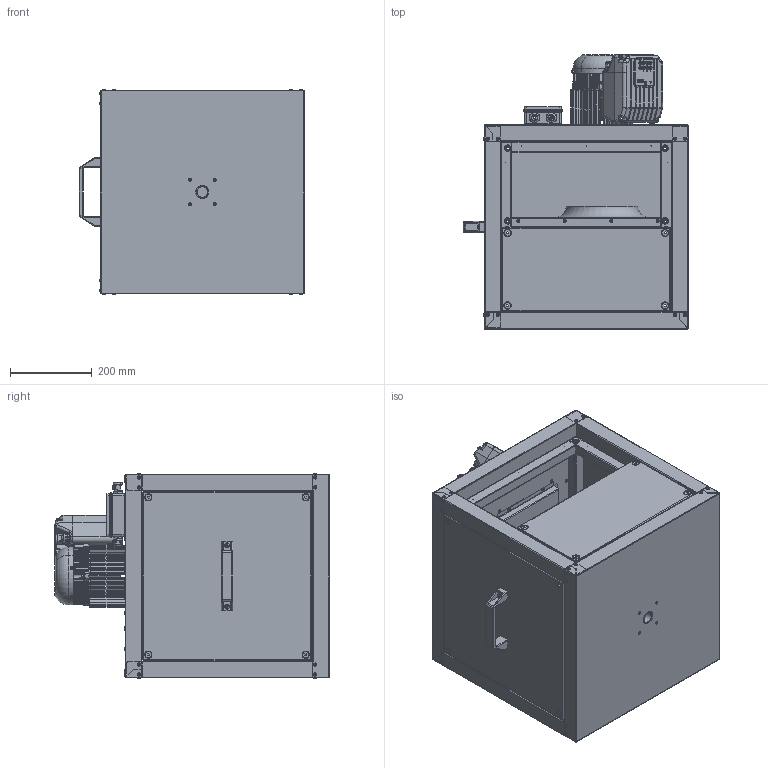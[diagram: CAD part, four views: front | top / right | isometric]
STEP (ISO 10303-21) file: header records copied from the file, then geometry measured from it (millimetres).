
FILE_DESCRIPTION (( 'STEP AP203' ), '1' );
FILE_NAME ('146521-00_MPC280ECTI30_step.step', '2018-07-03T13:29:16', ( '' ), ( '' ), 'SwSTEP 2.0', 'SolidWorks 2017', '' );
FILE_SCHEMA (( 'CONFIG_CONTROL_DESIGN' ));
Products named in the file (2): 146521-00_MPC280ECTI30_step
Bounding box: 553.3 x 672.1 x 502.6 mm (x, y, z)
Surface area: 3706073.5 mm2 (no closed solid volume)
Topology: 0 solids, 350 shells, 2733 faces, 11052 edges, 8417 vertices
Faces by surface type: plane 1015, cylinder 974, torus 339, bspline 241, cone 154, sphere 10
Entity records: 140634 total; most frequent: CARTESIAN_POINT 53584, DIRECTION 17662, ORIENTED_EDGE 15046, EDGE_CURVE 11045, VERTEX_POINT 8417, AXIS2_PLACEMENT_3D 6345, LINE 4972, VECTOR 4972
